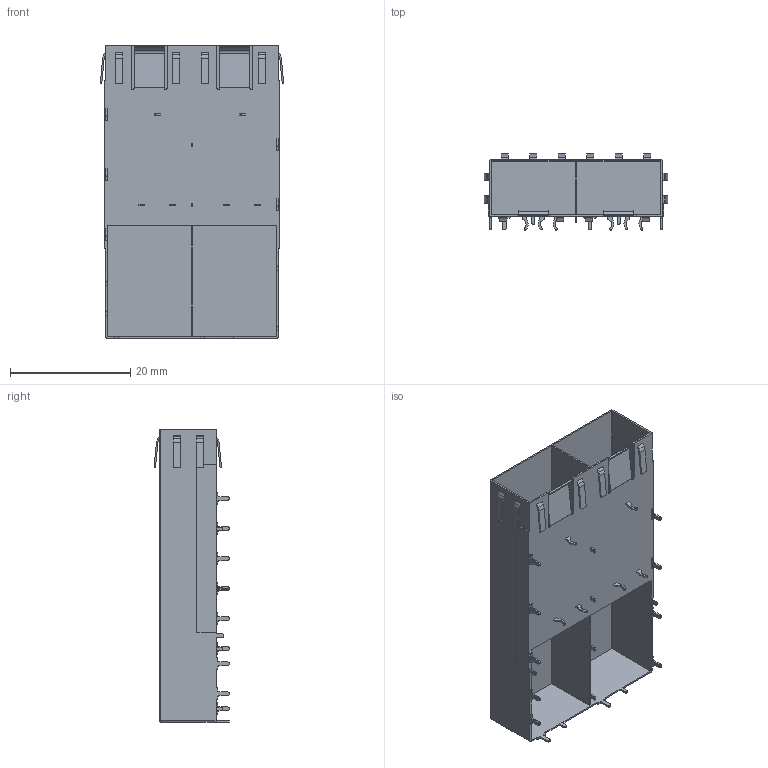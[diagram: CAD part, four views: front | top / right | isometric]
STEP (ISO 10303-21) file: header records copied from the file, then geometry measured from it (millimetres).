
FILE_DESCRIPTION (( 'STEP AP203' ), '1' );
FILE_NAME ('SFP 1X2 衄堎挴 爾諉褐酗1.90_3D-20240919.STEP', '2024-09-19T07:29:37', ( '' ), ( '' ), 'SwSTEP 2.0', 'SolidWorks 2018', '' );
FILE_SCHEMA (( 'CONFIG_CONTROL_DESIGN' ));
Length unit declared in the file: millimetre
Products named in the file (1): SFP 1X2 衄堎挴 爾諉褐酗1.90_3D-20240919
Bounding box: 30.55 x 12.65 x 48.75 mm (x, y, z)
Volume: 1028.3 mm3; surface area: 7998.8 mm2
Topology: 2 solids, 2 shells, 467 faces, 1315 edges, 872 vertices
Faces by surface type: plane 297, cylinder 168, sphere 2
Entity records: 15152 total; most frequent: CARTESIAN_POINT 2653, ORIENTED_EDGE 2626, DIRECTION 2591, EDGE_CURVE 1313, LINE 971, VECTOR 971, VERTEX_POINT 872, AXIS2_PLACEMENT_3D 810
